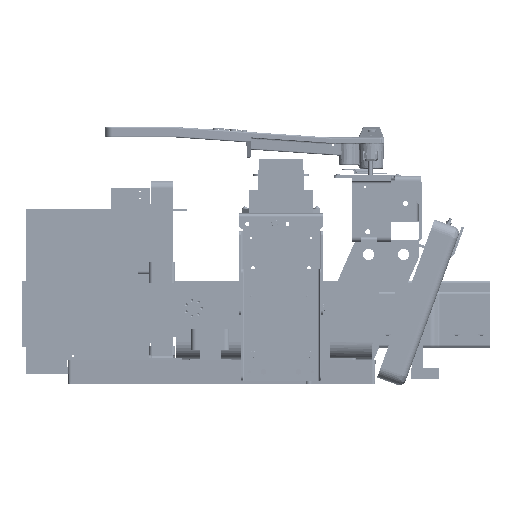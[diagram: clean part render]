
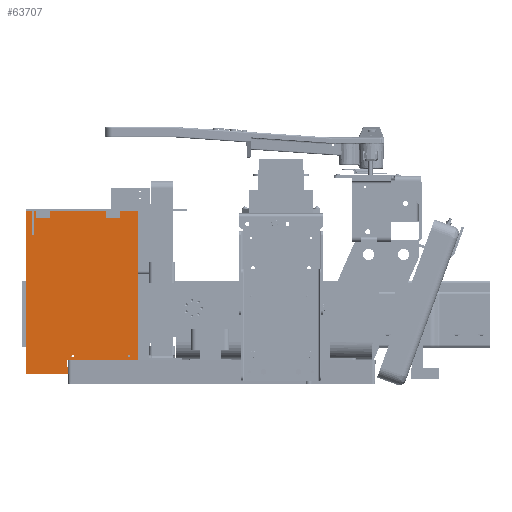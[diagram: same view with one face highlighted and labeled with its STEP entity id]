
A CAD part, left-side view. The second image highlights one B-rep face of the part: STEP entity #63707.
In plain terms, the highlighted planar face has unit normal (-1, 0, 0) as drawn and (0, 0, -1) by its records, which use the part's own axes.
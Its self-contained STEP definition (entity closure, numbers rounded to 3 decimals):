
#3285=FACE_BOUND('',#13507,.T.);
#3286=FACE_BOUND('',#13508,.T.);
#3287=FACE_BOUND('',#13509,.T.);
#3288=FACE_BOUND('',#13510,.T.);
#5271=CIRCLE('',#70560,0.097);
#5273=CIRCLE('',#70563,0.097);
#5275=CIRCLE('',#70566,0.097);
#5277=CIRCLE('',#70569,0.097);
#9452=FACE_OUTER_BOUND('',#13506,.T.);
#13506=EDGE_LOOP('',(#49981,#49982,#49983,#49984,#49985,#49986,#49987,#49988,
#49989,#49990,#49991,#49992));
#13507=EDGE_LOOP('',(#49993));
#13508=EDGE_LOOP('',(#49994));
#13509=EDGE_LOOP('',(#49995));
#13510=EDGE_LOOP('',(#49996));
#18473=LINE('',#102450,#23902);
#18477=LINE('',#102458,#23906);
#18480=LINE('',#102464,#23909);
#18483=LINE('',#102470,#23912);
#18486=LINE('',#102476,#23915);
#18489=LINE('',#102482,#23918);
#18492=LINE('',#102488,#23921);
#18495=LINE('',#102494,#23924);
#18498=LINE('',#102500,#23927);
#18501=LINE('',#102506,#23930);
#18504=LINE('',#102512,#23933);
#18507=LINE('',#102517,#23936);
#23902=VECTOR('',#83011,0.394);
#23906=VECTOR('',#83017,0.394);
#23909=VECTOR('',#83022,0.394);
#23912=VECTOR('',#83027,0.394);
#23915=VECTOR('',#83032,0.394);
#23918=VECTOR('',#83037,0.394);
#23921=VECTOR('',#83042,0.394);
#23924=VECTOR('',#83047,0.394);
#23927=VECTOR('',#83052,0.394);
#23930=VECTOR('',#83057,0.394);
#23933=VECTOR('',#83062,0.394);
#23936=VECTOR('',#83067,0.394);
#29547=VERTEX_POINT('',#102424);
#29549=VERTEX_POINT('',#102430);
#29551=VERTEX_POINT('',#102436);
#29553=VERTEX_POINT('',#102442);
#29555=VERTEX_POINT('',#102448);
#29556=VERTEX_POINT('',#102449);
#29559=VERTEX_POINT('',#102457);
#29561=VERTEX_POINT('',#102463);
#29563=VERTEX_POINT('',#102469);
#29565=VERTEX_POINT('',#102475);
#29567=VERTEX_POINT('',#102481);
#29569=VERTEX_POINT('',#102487);
#29571=VERTEX_POINT('',#102493);
#29573=VERTEX_POINT('',#102499);
#29575=VERTEX_POINT('',#102505);
#29577=VERTEX_POINT('',#102511);
#36797=EDGE_CURVE('',#29547,#29547,#5271,.T.);
#36800=EDGE_CURVE('',#29549,#29549,#5273,.T.);
#36803=EDGE_CURVE('',#29551,#29551,#5275,.T.);
#36806=EDGE_CURVE('',#29553,#29553,#5277,.T.);
#36809=EDGE_CURVE('',#29555,#29556,#18473,.T.);
#36813=EDGE_CURVE('',#29559,#29555,#18477,.T.);
#36816=EDGE_CURVE('',#29561,#29559,#18480,.T.);
#36819=EDGE_CURVE('',#29563,#29561,#18483,.T.);
#36822=EDGE_CURVE('',#29565,#29563,#18486,.T.);
#36825=EDGE_CURVE('',#29567,#29565,#18489,.T.);
#36828=EDGE_CURVE('',#29569,#29567,#18492,.T.);
#36831=EDGE_CURVE('',#29571,#29569,#18495,.T.);
#36834=EDGE_CURVE('',#29573,#29571,#18498,.T.);
#36837=EDGE_CURVE('',#29575,#29573,#18501,.T.);
#36840=EDGE_CURVE('',#29577,#29575,#18504,.T.);
#36843=EDGE_CURVE('',#29556,#29577,#18507,.T.);
#49981=ORIENTED_EDGE('',*,*,#36843,.F.);
#49982=ORIENTED_EDGE('',*,*,#36809,.F.);
#49983=ORIENTED_EDGE('',*,*,#36813,.F.);
#49984=ORIENTED_EDGE('',*,*,#36816,.F.);
#49985=ORIENTED_EDGE('',*,*,#36819,.F.);
#49986=ORIENTED_EDGE('',*,*,#36822,.F.);
#49987=ORIENTED_EDGE('',*,*,#36825,.F.);
#49988=ORIENTED_EDGE('',*,*,#36828,.F.);
#49989=ORIENTED_EDGE('',*,*,#36831,.F.);
#49990=ORIENTED_EDGE('',*,*,#36834,.F.);
#49991=ORIENTED_EDGE('',*,*,#36837,.F.);
#49992=ORIENTED_EDGE('',*,*,#36840,.F.);
#49993=ORIENTED_EDGE('',*,*,#36797,.T.);
#49994=ORIENTED_EDGE('',*,*,#36800,.T.);
#49995=ORIENTED_EDGE('',*,*,#36803,.T.);
#49996=ORIENTED_EDGE('',*,*,#36806,.T.);
#61094=PLANE('',#70584);
#63707=ADVANCED_FACE('',(#9452,#3285,#3286,#3287,#3288),#61094,.F.);
#70560=AXIS2_PLACEMENT_3D('',#102425,#82983,#82984);
#70563=AXIS2_PLACEMENT_3D('',#102431,#82990,#82991);
#70566=AXIS2_PLACEMENT_3D('',#102437,#82997,#82998);
#70569=AXIS2_PLACEMENT_3D('',#102443,#83004,#83005);
#70584=AXIS2_PLACEMENT_3D('',#102520,#83071,#83072);
#82983=DIRECTION('center_axis',(0.,0.,1.));
#82984=DIRECTION('ref_axis',(-1.,0.,0.));
#82990=DIRECTION('center_axis',(0.,0.,1.));
#82991=DIRECTION('ref_axis',(-1.,0.,0.));
#82997=DIRECTION('center_axis',(0.,0.,1.));
#82998=DIRECTION('ref_axis',(-1.,0.,0.));
#83004=DIRECTION('center_axis',(0.,0.,1.));
#83005=DIRECTION('ref_axis',(-1.,0.,0.));
#83011=DIRECTION('',(1.,0.,0.));
#83017=DIRECTION('',(0.,1.,0.));
#83022=DIRECTION('',(1.,0.,0.));
#83027=DIRECTION('',(0.,-1.,0.));
#83032=DIRECTION('',(-1.,0.,0.));
#83037=DIRECTION('',(0.,-1.,0.));
#83042=DIRECTION('',(1.,0.,0.));
#83047=DIRECTION('',(0.,-1.,0.));
#83052=DIRECTION('',(-1.,0.,0.));
#83057=DIRECTION('',(0.,1.,0.));
#83062=DIRECTION('',(1.,0.,0.));
#83067=DIRECTION('',(0.,-1.,0.));
#83071=DIRECTION('center_axis',(0.,0.,1.));
#83072=DIRECTION('ref_axis',(1.,0.,0.));
#102424=CARTESIAN_POINT('',(0.347,2.,0.));
#102425=CARTESIAN_POINT('Origin',(0.25,2.,0.));
#102430=CARTESIAN_POINT('',(0.347,7.,0.));
#102431=CARTESIAN_POINT('Origin',(0.25,7.,0.));
#102436=CARTESIAN_POINT('',(10.472,0.688,0.));
#102437=CARTESIAN_POINT('Origin',(10.375,0.688,0.));
#102442=CARTESIAN_POINT('',(10.472,4.688,0.));
#102443=CARTESIAN_POINT('Origin',(10.375,4.688,0.));
#102448=CARTESIAN_POINT('',(10.625,5.094,0.));
#102449=CARTESIAN_POINT('',(11.156,5.094,0.));
#102450=CARTESIAN_POINT('',(10.625,5.094,0.));
#102457=CARTESIAN_POINT('',(10.625,0.,0.));
#102458=CARTESIAN_POINT('',(10.625,0.,0.));
#102463=CARTESIAN_POINT('',(0.,0.,0.));
#102464=CARTESIAN_POINT('',(0.,0.,0.));
#102469=CARTESIAN_POINT('',(0.,7.422,0.));
#102470=CARTESIAN_POINT('',(0.,7.422,0.));
#102475=CARTESIAN_POINT('',(1.75,7.422,0.));
#102476=CARTESIAN_POINT('',(1.75,7.422,0.));
#102481=CARTESIAN_POINT('',(1.75,7.578,0.));
#102482=CARTESIAN_POINT('',(1.75,7.578,0.));
#102487=CARTESIAN_POINT('',(0.,7.578,0.));
#102488=CARTESIAN_POINT('',(0.,7.578,0.));
#102493=CARTESIAN_POINT('',(0.,8.,0.));
#102494=CARTESIAN_POINT('',(0.,8.,0.));
#102499=CARTESIAN_POINT('',(11.625,8.,0.));
#102500=CARTESIAN_POINT('',(11.625,8.,0.));
#102505=CARTESIAN_POINT('',(11.625,4.719,0.));
#102506=CARTESIAN_POINT('',(11.625,4.719,0.));
#102511=CARTESIAN_POINT('',(11.156,4.719,0.));
#102512=CARTESIAN_POINT('',(11.156,4.719,0.));
#102517=CARTESIAN_POINT('',(11.156,5.094,0.));
#102520=CARTESIAN_POINT('Origin',(5.401,4.41,0.));
